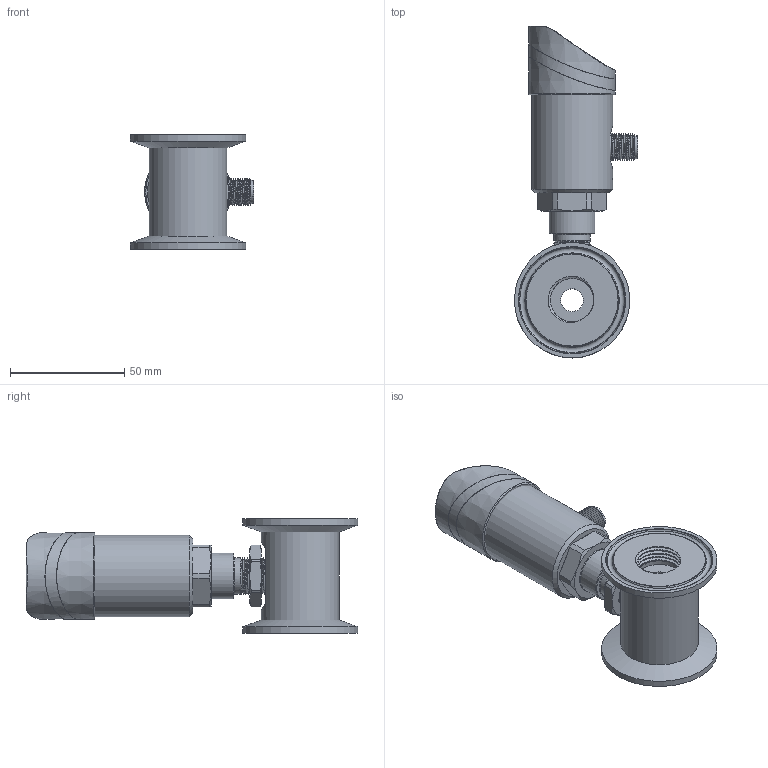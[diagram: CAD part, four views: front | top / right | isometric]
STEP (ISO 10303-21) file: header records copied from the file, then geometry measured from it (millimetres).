
FILE_DESCRIPTION( (''), '2;1');
FILE_NAME( 'QTKE_DN10_tri-clamp.step', '2024-10-15T08:23:01+08:00', (''), (''), '', '', '');
FILE_SCHEMA (('AUTOMOTIVE_DESIGN { 1 0 10303 214 3 1 1 1 }'));
Length unit declared in the file: millimetre
Products named in the file (1): QTKE DN10_tri-clamp
Bounding box: 53.93 x 145.25 x 50 mm (x, y, z)
Volume: 108194.7 mm3; surface area: 41540.8 mm2
Topology: 5 solids, 6 shells, 733 faces, 1896 edges, 1237 vertices
Faces by surface type: plane 269, extrusion 141, cylinder 135, cone 77, bspline 62, torus 38, sphere 11
Full cylindrical faces by diameter (mm): 1.689 x1, 2.7 x3, 10 x1, 12 x1, 15.9 x1, 16.5 x1, 17 x1, 20 x1, 21 x2, 23 x3, 26 x5, 34 x1, 35.5 x1, 37.001 x1, 50.5 x2
Entity records: 35452 total; most frequent: CARTESIAN_POINT 17353, ORIENTED_EDGE 3582, DIRECTION 2849, EDGE_CURVE 1791, VERTEX_POINT 1200, VECTOR 951, AXIS2_PLACEMENT_3D 949, EDGE_LOOP 869
